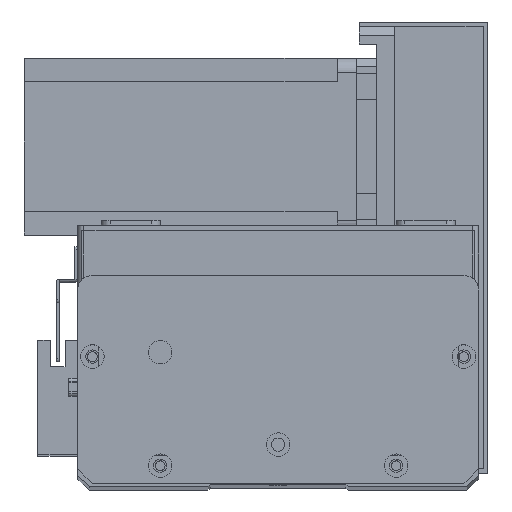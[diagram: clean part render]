
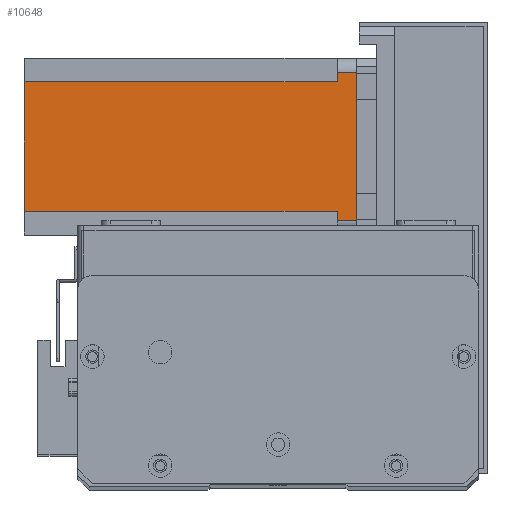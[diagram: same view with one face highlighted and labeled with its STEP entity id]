
A CAD part, top view. The second image highlights one B-rep face of the part: STEP entity #10648.
In plain terms, the highlighted planar face has unit normal (0, 0, 1) as drawn and (0, 1, 0) by its records, which use the part's own axes.
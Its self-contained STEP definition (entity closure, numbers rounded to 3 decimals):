
#1169 = LINE ( 'NONE', #3475, #6710 ) ;
#1477 = CARTESIAN_POINT ( 'NONE',  ( 8., 60., -112.5 ) ) ;
#2164 = DIRECTION ( 'NONE',  ( 0., 0., 1. ) ) ;
#2202 = DIRECTION ( 'NONE',  ( 0., 1., 0. ) ) ;
#2316 = PLANE ( 'NONE',  #24850 ) ;
#2449 = CARTESIAN_POINT ( 'NONE',  ( 5., 60., -6.5 ) ) ;
#2687 = EDGE_LOOP ( 'NONE', ( #16689, #13084, #22100, #26830, #10923, #2923, #14335, #7021 ) ) ;
#2923 = ORIENTED_EDGE ( 'NONE', *, *, #12416, .F. ) ;
#2936 = DIRECTION ( 'NONE',  ( 0., 0., -1. ) ) ;
#3153 = CARTESIAN_POINT ( 'NONE',  ( 0., 60., -112.5 ) ) ;
#3217 = VERTEX_POINT ( 'NONE', #2449 ) ;
#3250 = VERTEX_POINT ( 'NONE', #26121 ) ;
#3475 = CARTESIAN_POINT ( 'NONE',  ( 8., 60., -112.5 ) ) ;
#5206 = VECTOR ( 'NONE', #26019, 1000. ) ;
#5488 = VERTEX_POINT ( 'NONE', #24106 ) ;
#5950 = VECTOR ( 'NONE', #14048, 1000. ) ;
#6380 = VECTOR ( 'NONE', #18149, 1000. ) ;
#6710 = VECTOR ( 'NONE', #2936, 1000. ) ;
#6751 = DIRECTION ( 'NONE',  ( -1., 0., 0. ) ) ;
#6842 = CARTESIAN_POINT ( 'NONE',  ( 0., 60., 0. ) ) ;
#7018 = EDGE_CURVE ( 'NONE', #8504, #8087, #19084, .T. ) ;
#7021 = ORIENTED_EDGE ( 'NONE', *, *, #12901, .T. ) ;
#7098 = LINE ( 'NONE', #18089, #6380 ) ;
#8087 = VERTEX_POINT ( 'NONE', #24002 ) ;
#8504 = VERTEX_POINT ( 'NONE', #12390 ) ;
#8874 = VECTOR ( 'NONE', #10104, 1000. ) ;
#9512 = VERTEX_POINT ( 'NONE', #19314 ) ;
#10104 = DIRECTION ( 'NONE',  ( -1., 0., 0. ) ) ;
#10364 = VECTOR ( 'NONE', #17047, 1000. ) ;
#10648 = ADVANCED_FACE ( 'NONE', ( #21672 ), #2316, .T. ) ;
#10923 = ORIENTED_EDGE ( 'NONE', *, *, #12329, .T. ) ;
#11345 = EDGE_CURVE ( 'NONE', #8504, #5488, #22666, .T. ) ;
#11350 = CARTESIAN_POINT ( 'NONE',  ( 0., 60., -112.5 ) ) ;
#11541 = EDGE_CURVE ( 'NONE', #9512, #5488, #28649, .T. ) ;
#11699 = EDGE_CURVE ( 'NONE', #3250, #9512, #7098, .T. ) ;
#11975 = LINE ( 'NONE', #14270, #5950 ) ;
#12329 = EDGE_CURVE ( 'NONE', #3250, #17898, #26339, .T. ) ;
#12390 = CARTESIAN_POINT ( 'NONE',  ( 55., 60., 0. ) ) ;
#12416 = EDGE_CURVE ( 'NONE', #26683, #17898, #1169, .T. ) ;
#12539 = EDGE_CURVE ( 'NONE', #26683, #3217, #21559, .T. ) ;
#12901 = EDGE_CURVE ( 'NONE', #3217, #8087, #11975, .T. ) ;
#13084 = ORIENTED_EDGE ( 'NONE', *, *, #11345, .T. ) ;
#14048 = DIRECTION ( 'NONE',  ( 0., 0., 1. ) ) ;
#14270 = CARTESIAN_POINT ( 'NONE',  ( 5., 60., -112.5 ) ) ;
#14335 = ORIENTED_EDGE ( 'NONE', *, *, #12539, .T. ) ;
#16689 = ORIENTED_EDGE ( 'NONE', *, *, #7018, .F. ) ;
#17047 = DIRECTION ( 'NONE',  ( 0., 0., -1. ) ) ;
#17233 = VECTOR ( 'NONE', #26179, 1000. ) ;
#17898 = VERTEX_POINT ( 'NONE', #1477 ) ;
#18089 = CARTESIAN_POINT ( 'NONE',  ( 52., 60., -112.5 ) ) ;
#18149 = DIRECTION ( 'NONE',  ( 0., 0., 1. ) ) ;
#18551 = CARTESIAN_POINT ( 'NONE',  ( 55., 60., -112.5 ) ) ;
#19084 = LINE ( 'NONE', #6842, #23541 ) ;
#19314 = CARTESIAN_POINT ( 'NONE',  ( 52., 60., -6.5 ) ) ;
#21559 = LINE ( 'NONE', #26279, #5206 ) ;
#21672 = FACE_OUTER_BOUND ( 'NONE', #2687, .T. ) ;
#21834 = CARTESIAN_POINT ( 'NONE',  ( 8., 60., -6.5 ) ) ;
#22100 = ORIENTED_EDGE ( 'NONE', *, *, #11541, .F. ) ;
#22666 = LINE ( 'NONE', #18551, #10364 ) ;
#23541 = VECTOR ( 'NONE', #6751, 1000. ) ;
#24002 = CARTESIAN_POINT ( 'NONE',  ( 5., 60., 0. ) ) ;
#24106 = CARTESIAN_POINT ( 'NONE',  ( 55., 60., -6.5 ) ) ;
#24850 = AXIS2_PLACEMENT_3D ( 'NONE', #3153, #2202, #2164 ) ;
#25957 = CARTESIAN_POINT ( 'NONE',  ( 52., 60., -6.5 ) ) ;
#26019 = DIRECTION ( 'NONE',  ( -1., 0., 0. ) ) ;
#26121 = CARTESIAN_POINT ( 'NONE',  ( 52., 60., -112.5 ) ) ;
#26179 = DIRECTION ( 'NONE',  ( 1., 0., 0. ) ) ;
#26279 = CARTESIAN_POINT ( 'NONE',  ( 8., 60., -6.5 ) ) ;
#26339 = LINE ( 'NONE', #11350, #8874 ) ;
#26683 = VERTEX_POINT ( 'NONE', #21834 ) ;
#26830 = ORIENTED_EDGE ( 'NONE', *, *, #11699, .F. ) ;
#28649 = LINE ( 'NONE', #25957, #17233 ) ;
